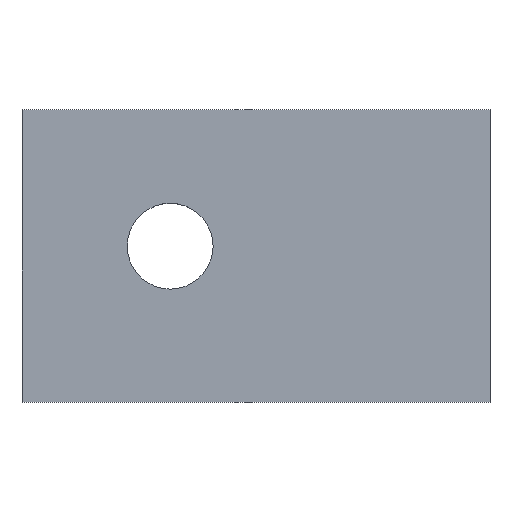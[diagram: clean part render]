
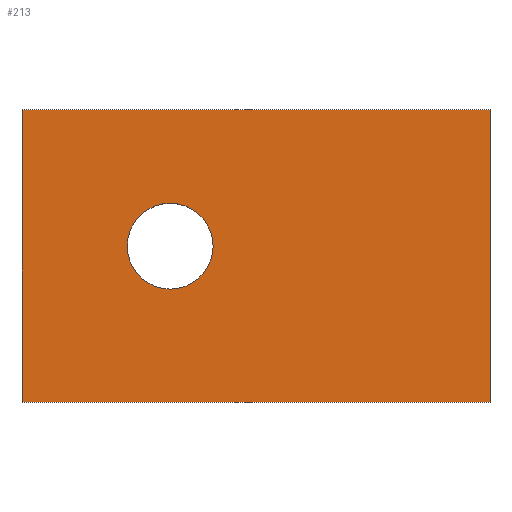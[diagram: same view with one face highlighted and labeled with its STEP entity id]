
A CAD part, top view. The second image highlights one B-rep face of the part: STEP entity #213.
In plain terms, the highlighted planar face has unit normal (0, 0, 1).
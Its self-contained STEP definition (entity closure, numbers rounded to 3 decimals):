
#24 = VERTEX_POINT('',#25);
#25 = CARTESIAN_POINT('',(22.4,20.,31.5));
#32 = PLANE('',#33);
#33 = AXIS2_PLACEMENT_3D('',#34,#35,#36);
#34 = CARTESIAN_POINT('',(22.4,20.,30.));
#35 = DIRECTION('',(1.,0.,-0.));
#36 = DIRECTION('',(0.,0.,1.));
#44 = PLANE('',#45);
#45 = AXIS2_PLACEMENT_3D('',#46,#47,#48);
#46 = CARTESIAN_POINT('',(22.4,20.,30.));
#47 = DIRECTION('',(-0.,1.,0.));
#48 = DIRECTION('',(0.,0.,1.));
#85 = VERTEX_POINT('',#86);
#86 = CARTESIAN_POINT('',(22.4,35.,31.5));
#100 = PLANE('',#101);
#101 = AXIS2_PLACEMENT_3D('',#102,#103,#104);
#102 = CARTESIAN_POINT('',(22.4,35.,30.));
#103 = DIRECTION('',(-0.,1.,0.));
#104 = DIRECTION('',(0.,0.,1.));
#112 = EDGE_CURVE('',#24,#85,#113,.T.);
#113 = SURFACE_CURVE('',#114,(#118,#125),.PCURVE_S1.);
#114 = LINE('',#115,#116);
#115 = CARTESIAN_POINT('',(22.4,20.,31.5));
#116 = VECTOR('',#117,1.);
#117 = DIRECTION('',(-0.,1.,0.));
#118 = PCURVE('',#32,#119);
#119 = DEFINITIONAL_REPRESENTATION('',(#120),#124);
#120 = LINE('',#121,#122);
#121 = CARTESIAN_POINT('',(1.5,0.));
#122 = VECTOR('',#123,1.);
#123 = DIRECTION('',(0.,-1.));
#124 = ( GEOMETRIC_REPRESENTATION_CONTEXT(2) 
PARAMETRIC_REPRESENTATION_CONTEXT() REPRESENTATION_CONTEXT('2D SPACE',''
  ) );
#125 = PCURVE('',#126,#131);
#126 = PLANE('',#127);
#127 = AXIS2_PLACEMENT_3D('',#128,#129,#130);
#128 = CARTESIAN_POINT('',(22.4,20.,31.5));
#129 = DIRECTION('',(0.,0.,1.));
#130 = DIRECTION('',(1.,0.,-0.));
#131 = DEFINITIONAL_REPRESENTATION('',(#132),#136);
#132 = LINE('',#133,#134);
#133 = CARTESIAN_POINT('',(0.,0.));
#134 = VECTOR('',#135,1.);
#135 = DIRECTION('',(0.,1.));
#136 = ( GEOMETRIC_REPRESENTATION_CONTEXT(2) 
PARAMETRIC_REPRESENTATION_CONTEXT() REPRESENTATION_CONTEXT('2D SPACE',''
  ) );
#165 = EDGE_CURVE('',#24,#166,#168,.T.);
#166 = VERTEX_POINT('',#167);
#167 = CARTESIAN_POINT('',(46.4,20.,31.5));
#168 = SURFACE_CURVE('',#169,(#173,#180),.PCURVE_S1.);
#169 = LINE('',#170,#171);
#170 = CARTESIAN_POINT('',(22.4,20.,31.5));
#171 = VECTOR('',#172,1.);
#172 = DIRECTION('',(1.,0.,-0.));
#173 = PCURVE('',#44,#174);
#174 = DEFINITIONAL_REPRESENTATION('',(#175),#179);
#175 = LINE('',#176,#177);
#176 = CARTESIAN_POINT('',(1.5,0.));
#177 = VECTOR('',#178,1.);
#178 = DIRECTION('',(0.,1.));
#179 = ( GEOMETRIC_REPRESENTATION_CONTEXT(2) 
PARAMETRIC_REPRESENTATION_CONTEXT() REPRESENTATION_CONTEXT('2D SPACE',''
  ) );
#180 = PCURVE('',#126,#181);
#181 = DEFINITIONAL_REPRESENTATION('',(#182),#186);
#182 = LINE('',#183,#184);
#183 = CARTESIAN_POINT('',(0.,0.));
#184 = VECTOR('',#185,1.);
#185 = DIRECTION('',(1.,0.));
#186 = ( GEOMETRIC_REPRESENTATION_CONTEXT(2) 
PARAMETRIC_REPRESENTATION_CONTEXT() REPRESENTATION_CONTEXT('2D SPACE',''
  ) );
#202 = PLANE('',#203);
#203 = AXIS2_PLACEMENT_3D('',#204,#205,#206);
#204 = CARTESIAN_POINT('',(46.4,20.,30.));
#205 = DIRECTION('',(1.,0.,-0.));
#206 = DIRECTION('',(0.,0.,1.));
#213 = ADVANCED_FACE('',(#214,#262),#126,.T.);
#214 = FACE_BOUND('',#215,.T.);
#215 = EDGE_LOOP('',(#216,#217,#218,#241));
#216 = ORIENTED_EDGE('',*,*,#112,.F.);
#217 = ORIENTED_EDGE('',*,*,#165,.T.);
#218 = ORIENTED_EDGE('',*,*,#219,.T.);
#219 = EDGE_CURVE('',#166,#220,#222,.T.);
#220 = VERTEX_POINT('',#221);
#221 = CARTESIAN_POINT('',(46.4,35.,31.5));
#222 = SURFACE_CURVE('',#223,(#227,#234),.PCURVE_S1.);
#223 = LINE('',#224,#225);
#224 = CARTESIAN_POINT('',(46.4,20.,31.5));
#225 = VECTOR('',#226,1.);
#226 = DIRECTION('',(-0.,1.,0.));
#227 = PCURVE('',#126,#228);
#228 = DEFINITIONAL_REPRESENTATION('',(#229),#233);
#229 = LINE('',#230,#231);
#230 = CARTESIAN_POINT('',(24.,0.));
#231 = VECTOR('',#232,1.);
#232 = DIRECTION('',(0.,1.));
#233 = ( GEOMETRIC_REPRESENTATION_CONTEXT(2) 
PARAMETRIC_REPRESENTATION_CONTEXT() REPRESENTATION_CONTEXT('2D SPACE',''
  ) );
#234 = PCURVE('',#202,#235);
#235 = DEFINITIONAL_REPRESENTATION('',(#236),#240);
#236 = LINE('',#237,#238);
#237 = CARTESIAN_POINT('',(1.5,0.));
#238 = VECTOR('',#239,1.);
#239 = DIRECTION('',(0.,-1.));
#240 = ( GEOMETRIC_REPRESENTATION_CONTEXT(2) 
PARAMETRIC_REPRESENTATION_CONTEXT() REPRESENTATION_CONTEXT('2D SPACE',''
  ) );
#241 = ORIENTED_EDGE('',*,*,#242,.F.);
#242 = EDGE_CURVE('',#85,#220,#243,.T.);
#243 = SURFACE_CURVE('',#244,(#248,#255),.PCURVE_S1.);
#244 = LINE('',#245,#246);
#245 = CARTESIAN_POINT('',(22.4,35.,31.5));
#246 = VECTOR('',#247,1.);
#247 = DIRECTION('',(1.,0.,-0.));
#248 = PCURVE('',#126,#249);
#249 = DEFINITIONAL_REPRESENTATION('',(#250),#254);
#250 = LINE('',#251,#252);
#251 = CARTESIAN_POINT('',(0.,15.));
#252 = VECTOR('',#253,1.);
#253 = DIRECTION('',(1.,0.));
#254 = ( GEOMETRIC_REPRESENTATION_CONTEXT(2) 
PARAMETRIC_REPRESENTATION_CONTEXT() REPRESENTATION_CONTEXT('2D SPACE',''
  ) );
#255 = PCURVE('',#100,#256);
#256 = DEFINITIONAL_REPRESENTATION('',(#257),#261);
#257 = LINE('',#258,#259);
#258 = CARTESIAN_POINT('',(1.5,0.));
#259 = VECTOR('',#260,1.);
#260 = DIRECTION('',(0.,1.));
#261 = ( GEOMETRIC_REPRESENTATION_CONTEXT(2) 
PARAMETRIC_REPRESENTATION_CONTEXT() REPRESENTATION_CONTEXT('2D SPACE',''
  ) );
#262 = FACE_BOUND('',#263,.T.);
#263 = EDGE_LOOP('',(#264));
#264 = ORIENTED_EDGE('',*,*,#265,.F.);
#265 = EDGE_CURVE('',#266,#266,#268,.T.);
#266 = VERTEX_POINT('',#267);
#267 = CARTESIAN_POINT('',(32.2,28.,31.5));
#268 = SURFACE_CURVE('',#269,(#274,#281),.PCURVE_S1.);
#269 = CIRCLE('',#270,2.2);
#270 = AXIS2_PLACEMENT_3D('',#271,#272,#273);
#271 = CARTESIAN_POINT('',(30.,28.,31.5));
#272 = DIRECTION('',(0.,0.,1.));
#273 = DIRECTION('',(1.,0.,-0.));
#274 = PCURVE('',#126,#275);
#275 = DEFINITIONAL_REPRESENTATION('',(#276),#280);
#276 = CIRCLE('',#277,2.2);
#277 = AXIS2_PLACEMENT_2D('',#278,#279);
#278 = CARTESIAN_POINT('',(7.6,8.));
#279 = DIRECTION('',(1.,0.));
#280 = ( GEOMETRIC_REPRESENTATION_CONTEXT(2) 
PARAMETRIC_REPRESENTATION_CONTEXT() REPRESENTATION_CONTEXT('2D SPACE',''
  ) );
#281 = PCURVE('',#282,#287);
#282 = CYLINDRICAL_SURFACE('',#283,2.2);
#283 = AXIS2_PLACEMENT_3D('',#284,#285,#286);
#284 = CARTESIAN_POINT('',(30.,28.,29.9));
#285 = DIRECTION('',(0.,0.,1.));
#286 = DIRECTION('',(1.,0.,-0.));
#287 = DEFINITIONAL_REPRESENTATION('',(#288),#292);
#288 = LINE('',#289,#290);
#289 = CARTESIAN_POINT('',(0.,1.6));
#290 = VECTOR('',#291,1.);
#291 = DIRECTION('',(1.,0.));
#292 = ( GEOMETRIC_REPRESENTATION_CONTEXT(2) 
PARAMETRIC_REPRESENTATION_CONTEXT() REPRESENTATION_CONTEXT('2D SPACE',''
  ) );
